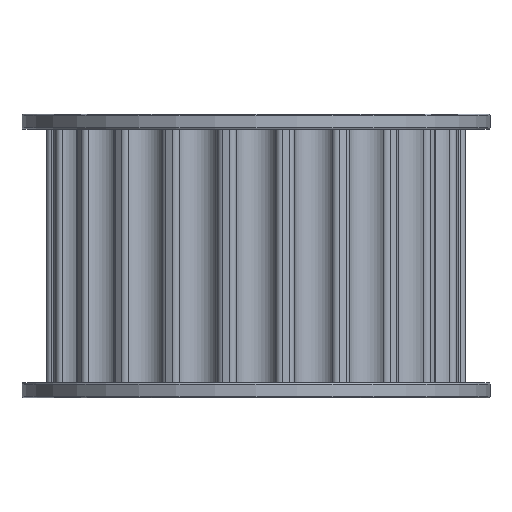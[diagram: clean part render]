
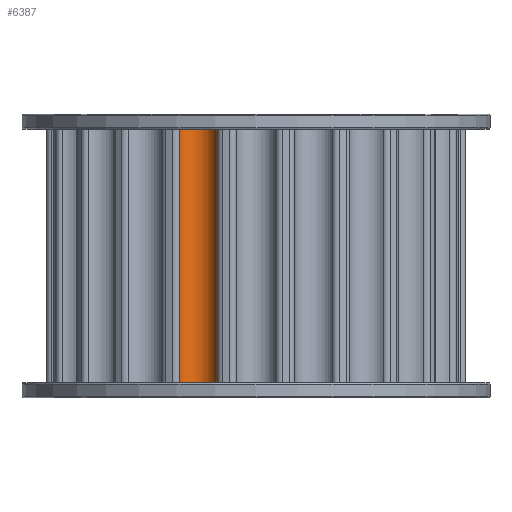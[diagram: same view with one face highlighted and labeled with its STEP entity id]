
A CAD part, front view. The second image highlights one B-rep face of the part: STEP entity #6387.
In plain terms, the highlighted cylindrical face has radius 2.7 mm (diameter 5.4 mm), a partial arc.
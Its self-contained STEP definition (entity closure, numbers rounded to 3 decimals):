
#19 = CARTESIAN_POINT ( 'NONE',  ( -5.005, -26.242, 34. ) ) ;
#63 = FACE_OUTER_BOUND ( 'NONE', #6843, .T. ) ;
#322 = CARTESIAN_POINT ( 'NONE',  ( -5.005, -26.242, 1. ) ) ;
#730 = EDGE_CURVE ( 'NONE', #10354, #8251, #9898, .T. ) ;
#840 = AXIS2_PLACEMENT_3D ( 'NONE', #10145, #2279, #7645 ) ;
#1101 = CARTESIAN_POINT ( 'NONE',  ( -5.005, -26.242, 0. ) ) ;
#1589 = AXIS2_PLACEMENT_3D ( 'NONE', #9059, #11194, #6710 ) ;
#2279 = DIRECTION ( 'NONE',  ( 0., 0., 1. ) ) ;
#2762 = ORIENTED_EDGE ( 'NONE', *, *, #8303, .T. ) ;
#3474 = CIRCLE ( 'NONE', #1589, 2.7 ) ;
#4237 = VECTOR ( 'NONE', #14398, 1000. ) ;
#4500 = DIRECTION ( 'NONE',  ( 0., 0., 1. ) ) ;
#5409 = CARTESIAN_POINT ( 'NONE',  ( -9.983, -24.792, 0. ) ) ;
#5720 = CYLINDRICAL_SURFACE ( 'NONE', #840, 2.7 ) ;
#6387 = ADVANCED_FACE ( 'NONE', ( #63 ), #5720, .F. ) ;
#6710 = DIRECTION ( 'NONE',  ( -1., 0., 0. ) ) ;
#6843 = EDGE_LOOP ( 'NONE', ( #12770, #2762, #14397, #7294 ) ) ;
#6884 = EDGE_CURVE ( 'NONE', #10354, #12493, #6961, .T. ) ;
#6961 = CIRCLE ( 'NONE', #14249, 2.7 ) ;
#7294 = ORIENTED_EDGE ( 'NONE', *, *, #730, .T. ) ;
#7645 = DIRECTION ( 'NONE',  ( 1., 0., 0. ) ) ;
#8251 = VERTEX_POINT ( 'NONE', #11188 ) ;
#8303 = EDGE_CURVE ( 'NONE', #11882, #12493, #14510, .T. ) ;
#8398 = DIRECTION ( 'NONE',  ( 1., 0., 0. ) ) ;
#9059 = CARTESIAN_POINT ( 'NONE',  ( -7.705, -26.242, 1. ) ) ;
#9570 = CARTESIAN_POINT ( 'NONE',  ( -7.705, -26.242, 34. ) ) ;
#9898 = LINE ( 'NONE', #5409, #4237 ) ;
#10124 = EDGE_CURVE ( 'NONE', #11882, #8251, #3474, .T. ) ;
#10145 = CARTESIAN_POINT ( 'NONE',  ( -7.705, -26.242, 0. ) ) ;
#10354 = VERTEX_POINT ( 'NONE', #14054 ) ;
#11188 = CARTESIAN_POINT ( 'NONE',  ( -9.983, -24.792, 1. ) ) ;
#11194 = DIRECTION ( 'NONE',  ( 0., 0., 1. ) ) ;
#11430 = VECTOR ( 'NONE', #4500, 1000. ) ;
#11882 = VERTEX_POINT ( 'NONE', #322 ) ;
#12493 = VERTEX_POINT ( 'NONE', #19 ) ;
#12770 = ORIENTED_EDGE ( 'NONE', *, *, #10124, .F. ) ;
#14054 = CARTESIAN_POINT ( 'NONE',  ( -9.983, -24.792, 34. ) ) ;
#14064 = DIRECTION ( 'NONE',  ( 0., 0., -1. ) ) ;
#14249 = AXIS2_PLACEMENT_3D ( 'NONE', #9570, #14064, #8398 ) ;
#14397 = ORIENTED_EDGE ( 'NONE', *, *, #6884, .F. ) ;
#14398 = DIRECTION ( 'NONE',  ( 0., 0., -1. ) ) ;
#14510 = LINE ( 'NONE', #1101, #11430 ) ;
